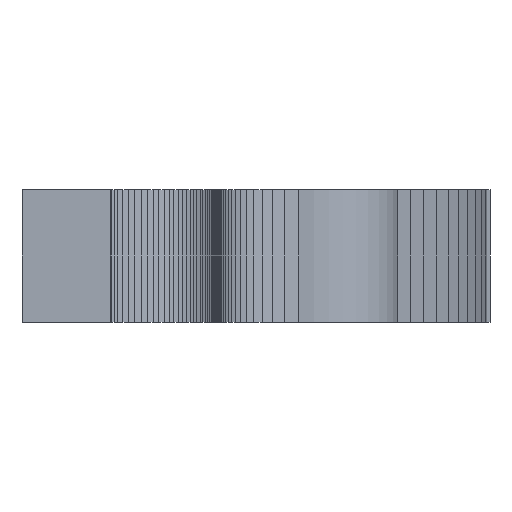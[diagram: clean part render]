
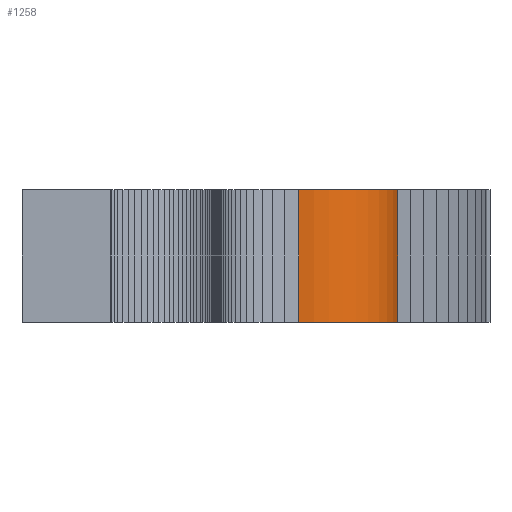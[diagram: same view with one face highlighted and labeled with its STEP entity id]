
A CAD part, front view. The second image highlights one B-rep face of the part: STEP entity #1258.
In plain terms, the highlighted cylindrical face has radius 6.685 mm (diameter 13.37 mm), a partial arc.
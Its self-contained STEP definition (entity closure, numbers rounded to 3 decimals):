
#34 = ORIENTED_EDGE ( 'NONE', *, *, #1607, .F. ) ;
#37 = EDGE_CURVE ( 'NONE', #1937, #260, #994, .T. ) ;
#50 = VERTEX_POINT ( 'NONE', #798 ) ;
#91 = EDGE_CURVE ( 'NONE', #50, #1937, #136, .T. ) ;
#136 = LINE ( 'NONE', #844, #235 ) ;
#235 = VECTOR ( 'NONE', #2115, 1000. ) ;
#238 = AXIS2_PLACEMENT_3D ( 'NONE', #1204, #2085, #2129 ) ;
#260 = VERTEX_POINT ( 'NONE', #1453 ) ;
#276 = LINE ( 'NONE', #1168, #377 ) ;
#333 = CYLINDRICAL_SURFACE ( 'NONE', #2012, 6.685 ) ;
#350 = ORIENTED_EDGE ( 'NONE', *, *, #878, .F. ) ;
#377 = VECTOR ( 'NONE', #1187, 1000. ) ;
#444 = VERTEX_POINT ( 'NONE', #517 ) ;
#465 = AXIS2_PLACEMENT_3D ( 'NONE', #2579, #2344, #2785 ) ;
#517 = CARTESIAN_POINT ( 'NONE',  ( 22.059, 43.69, 10. ) ) ;
#707 = EDGE_LOOP ( 'NONE', ( #2482, #34, #350, #1786 ) ) ;
#798 = CARTESIAN_POINT ( 'NONE',  ( 22.124, 30.418, 10. ) ) ;
#844 = CARTESIAN_POINT ( 'NONE',  ( 22.124, 30.418, 10. ) ) ;
#878 = EDGE_CURVE ( 'NONE', #50, #444, #1357, .T. ) ;
#994 = CIRCLE ( 'NONE', #465, 6.685 ) ;
#1168 = CARTESIAN_POINT ( 'NONE',  ( 22.059, 43.69, 10. ) ) ;
#1187 = DIRECTION ( 'NONE',  ( 0., 0., -1. ) ) ;
#1204 = CARTESIAN_POINT ( 'NONE',  ( 22.901, 37.058, 10. ) ) ;
#1258 = ADVANCED_FACE ( 'NONE', ( #1455 ), #333, .T. ) ;
#1357 = CIRCLE ( 'NONE', #238, 6.685 ) ;
#1453 = CARTESIAN_POINT ( 'NONE',  ( 22.059, 43.69, 0. ) ) ;
#1455 = FACE_OUTER_BOUND ( 'NONE', #707, .T. ) ;
#1607 = EDGE_CURVE ( 'NONE', #444, #260, #276, .T. ) ;
#1786 = ORIENTED_EDGE ( 'NONE', *, *, #91, .T. ) ;
#1937 = VERTEX_POINT ( 'NONE', #2253 ) ;
#2012 = AXIS2_PLACEMENT_3D ( 'NONE', #2587, #2108, #2351 ) ;
#2085 = DIRECTION ( 'NONE',  ( 0., 0., 1. ) ) ;
#2108 = DIRECTION ( 'NONE',  ( 0., 0., -1. ) ) ;
#2115 = DIRECTION ( 'NONE',  ( 0., 0., -1. ) ) ;
#2129 = DIRECTION ( 'NONE',  ( 1., 0., 0. ) ) ;
#2253 = CARTESIAN_POINT ( 'NONE',  ( 22.124, 30.418, 0. ) ) ;
#2344 = DIRECTION ( 'NONE',  ( 0., 0., 1. ) ) ;
#2351 = DIRECTION ( 'NONE',  ( -1., 0., 0. ) ) ;
#2482 = ORIENTED_EDGE ( 'NONE', *, *, #37, .T. ) ;
#2579 = CARTESIAN_POINT ( 'NONE',  ( 22.901, 37.058, 0. ) ) ;
#2587 = CARTESIAN_POINT ( 'NONE',  ( 22.901, 37.058, 10. ) ) ;
#2785 = DIRECTION ( 'NONE',  ( 1., 0., 0. ) ) ;
